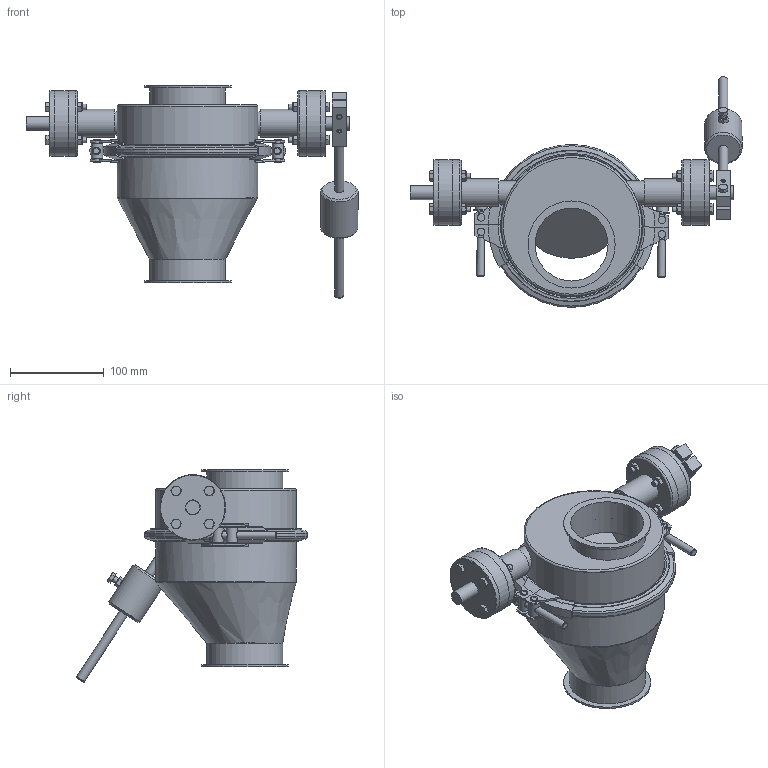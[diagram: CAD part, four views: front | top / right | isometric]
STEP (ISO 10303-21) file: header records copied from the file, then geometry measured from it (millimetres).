
FILE_DESCRIPTION((''),'2;1');
FILE_NAME('U:\Wolfgang\Marcel-3D\fertig\Kapitel 8\0811175.stp','2011-05-03T15:13:52',('TK1'),(''),'Autodesk Inventor 2010','Autodesk Inventor 2010','');
FILE_SCHEMA(('AUTOMOTIVE_DESIGN { 1 0 10303 214 1 1 1 1 }'));
Length unit declared in the file: millimetre
Products named in the file (20): 0811175; Hebel D15; WelleDN80; Wellenende D15; Buchse D15 70-50; lagerdeckel D15; PendelkugellagerD15; 0811175-1; 1512056; 1522055-1; Verschluss b=174; Verschlussrolle; VerschlussrolleGewinde; ISO 4762 M8 x 70; ISO 7089 8 - 140 HV; DIN EN ISO 4018 M6x40; DIN EN ISO 4018 M6x30; DIN 555 - ersetzt durch DIN EN 24034 M6; DIN 914 M5 x 6; DIN EN ISO 4018 M6x20
Assembly tree (44 placements, depth 3):
  0811175
    Hebel D15
    WelleDN80
    Wellenende D15  x2
      Buchse D15 70-50
      lagerdeckel D15
      PendelkugellagerD15
    0811175-1
    1512056
      1522055-1  x2
      Verschluss b=174  x4
      Verschlussrolle  x2
      VerschlussrolleGewinde  x2
      ISO 4762 M8 x 70  x2
      ISO 7089 8 - 140 HV  x2
    DIN EN ISO 4018 M6x40  x8
    DIN EN ISO 4018 M6x30
    DIN 555 - ersetzt durch DIN EN 24034 M6  x9
    DIN 914 M5 x 6  x2
    DIN EN ISO 4018 M6x20
Bounding box: 354.5 x 246.67 x 226.49 mm (x, y, z)
Volume: 638094 mm3; surface area: 428659.6 mm2
Topology: 44 solids, 44 shells, 865 faces, 2070 edges, 1339 vertices
Faces by surface type: plane 336, cylinder 187, cone 184, bspline 136, torus 22
Full cylindrical faces by diameter (mm): 5 x10, 6 x12, 8 x10, 8.4 x2, 9 x1, 10 x2, 12 x4, 13 x2, 15 x5, 15.5 x2, 16 x4, 24 x2, 25 x4, 30 x2, 35 x2, 40 x1, 70 x6, 78 x1, 79 x1, 81 x3, 93 x2, 147 x1, 148 x1, 149 x1, 150 x2, 160 x1, 162 x1
Entity records: 11676 total; most frequent: CARTESIAN_POINT 4338, DIRECTION 1448, ORIENTED_EDGE 1224, AXIS2_PLACEMENT_3D 617, EDGE_CURVE 612, EDGE_LOOP 503, VERTEX_POINT 455, FACE_OUTER_BOUND 323
